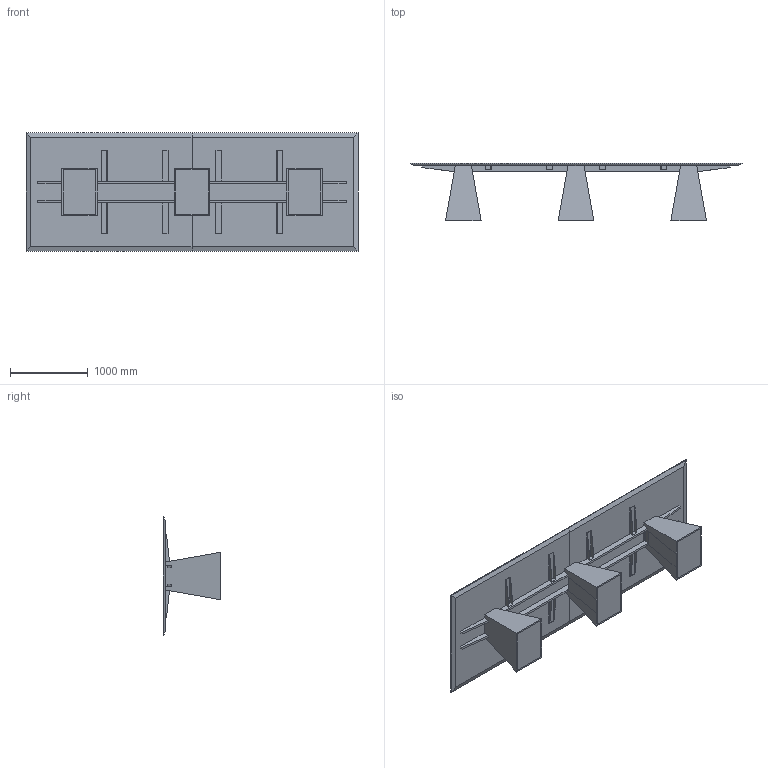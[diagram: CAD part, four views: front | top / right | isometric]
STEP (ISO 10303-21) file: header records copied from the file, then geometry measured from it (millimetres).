
FILE_DESCRIPTION(/* description */ ('','CAx-IF Rec.Pracs.---Representation and Presentation of Product Manufacturing Information (PMI)---4.0---2014-10-13'),/* implementation_level */ '2;1');
FILE_NAME(/* name */ 'TABLE_GRADIENT 7.stp',/* time_stamp */ '2024-12-07T16:26:54-05:00',/* author */ ('mbowman'),/* organization */ (''),/* preprocessor_version */ 'ST-DEVELOPER v19.2',/* originating_system */ 'Autodesk Inventor 2023',/* authorisation */ '');
FILE_SCHEMA (('AP242_MANAGED_MODEL_BASED_3D_ENGINEERING_MIM_LF { 1 0 10303 442 1 1 4 }'));
Length unit declared in the file: inch
Products named in the file (38): GRADIENT^TABLE 7_PYRAMID BASES-ASSEMBLY; GRADIENT^TABLE 7_PYRAMID BASES-CTR BASE BOTTOM; GRADIENT^TABLE 7_PYRAMID BASES-CTR BASE BACK; GRADIENT^TABLE 7_PYRAMID BASES-CTR BASE RIGHT SIDE; GRADIENT^TABLE 7_PYRAMID BASES-CTR BASE RIGHT WING; GRADIENT^TABLE 7_PYRAMID BASES-CTR BASE ACCESS; GRADIENT^TABLE 7_PYRAMID BASES-CTR BASE LEFT WING; GRADIENT^TABLE 7_PYRAMID BASES-CTR BASE LEFT SIDE; GRADIENT^TABLE 7_PYRAMID BASES-RIGHT TOP; GRADIENT^TABLE 7_PYRAMID BASES-LEFT TOP; GRADIENT^TABLE 7_PYRAMID BASES-KEEL; GRADIENT^TABLE 7_PYRAMID BASES-RIGHT KEEL; GRADIENT^TABLE 7_PYRAMID BASES-END BASE RIGHT WING; GRADIENT^TABLE 7_PYRAMID BASES-END BASE ACCESS; GRADIENT^TABLE 7_PYRAMID BASES-END BASE LEFT WING; GRADIENT^TABLE 7_PYRAMID BASES-END BASE BOTTOM; GRADIENT^TABLE 7_PYRAMID BASES-END BASE LEFT SIDE; GRADIENT^TABLE 7_PYRAMID BASES-END BASE RIGHT SIDE; GRADIENT^TABLE 7_PYRAMID BASES-END BASE BACK; ECA INTERACT+ UT; ECA INTERACT+ UT_1; 8965-6403_8965-6408 no wires; 025-0043_025-0043; GRADIENT^TABLE 7_PYRAMID BASES-POWER LID; _ASSEM_HINGE; _ASSEM_HINGE_1; _ASSEM_HINGE_2; _ASSEM_HINGE_3; _SUPPORT; _TIGE_3; _ARM; _TIGE_2; _TIGE_1; GRADIENT^TABLE 7_PYRAMID BASES-BASE TOP FRONT BLOCKING; GRADIENT^TABLE 7_PYRAMID BASES-BASE BTOP BACK BLOCKING; GRADIENT^TABLE 7_PYRAMID BASES-BASE TOP; GRADIENT^TABLE 7_PYRAMID BASES-BASE TOP SIDE BLOCKING; GRADIENT^TABLE 7_PYRAMID BASES-SUPPORT ANGLE
Assembly tree (109 placements, depth 4):
  GRADIENT^TABLE 7_PYRAMID BASES-ASSEMBLY
    GRADIENT^TABLE 7_PYRAMID BASES-CTR BASE BOTTOM
    GRADIENT^TABLE 7_PYRAMID BASES-CTR BASE BACK
    GRADIENT^TABLE 7_PYRAMID BASES-CTR BASE RIGHT SIDE
    GRADIENT^TABLE 7_PYRAMID BASES-CTR BASE RIGHT WING
    GRADIENT^TABLE 7_PYRAMID BASES-CTR BASE ACCESS
    GRADIENT^TABLE 7_PYRAMID BASES-CTR BASE LEFT WING
    GRADIENT^TABLE 7_PYRAMID BASES-CTR BASE LEFT SIDE
    GRADIENT^TABLE 7_PYRAMID BASES-END BASE RIGHT WING  x2
    GRADIENT^TABLE 7_PYRAMID BASES-END BASE ACCESS  x2
    GRADIENT^TABLE 7_PYRAMID BASES-END BASE LEFT WING  x2
    GRADIENT^TABLE 7_PYRAMID BASES-END BASE BOTTOM  x2
    GRADIENT^TABLE 7_PYRAMID BASES-END BASE LEFT SIDE  x2
    GRADIENT^TABLE 7_PYRAMID BASES-END BASE RIGHT SIDE  x2
    GRADIENT^TABLE 7_PYRAMID BASES-END BASE BACK  x2
    GRADIENT^TABLE 7_PYRAMID BASES-RIGHT TOP
    GRADIENT^TABLE 7_PYRAMID BASES-LEFT TOP
    GRADIENT^TABLE 7_PYRAMID BASES-KEEL  x2
    GRADIENT^TABLE 7_PYRAMID BASES-RIGHT KEEL  x2
    ECA INTERACT+ UT  x2
      ECA INTERACT+ UT_1
      8965-6403_8965-6408 no wires
        025-0043_025-0043
    GRADIENT^TABLE 7_PYRAMID BASES-POWER LID  x2
    _ASSEM_HINGE
      _SUPPORT  x2
      _TIGE_3  x2
      _ARM  x4
      _TIGE_1  x2
      _TIGE_2
    _ASSEM_HINGE_1
      _SUPPORT  x2
      _TIGE_3  x2
      _ARM  x4
      _TIGE_1  x2
      _TIGE_2
    _ASSEM_HINGE_2
      _SUPPORT  x2
      _TIGE_3  x2
      _ARM  x4
      _TIGE_1  x2
      _TIGE_2
    _ASSEM_HINGE_3
      _SUPPORT  x2
      _TIGE_3  x2
      _ARM  x4
      _TIGE_1  x2
      _TIGE_2
    GRADIENT^TABLE 7_PYRAMID BASES-BASE TOP FRONT BLOCKING  x3
    GRADIENT^TABLE 7_PYRAMID BASES-BASE BTOP BACK BLOCKING  x3
    GRADIENT^TABLE 7_PYRAMID BASES-BASE TOP SIDE BLOCKING  x6
    GRADIENT^TABLE 7_PYRAMID BASES-BASE TOP  x3
    GRADIENT^TABLE 7_PYRAMID BASES-SUPPORT ANGLE  x8
Bounding box: 4267.2 x 742.95 x 1524 mm (x, y, z)
Volume: 306523097.2 mm3; surface area: 26246799.2 mm2
Topology: 110 solids, 110 shells, 4967 faces, 13457 edges, 8702 vertices
Faces by surface type: plane 3001, cylinder 1692, torus 176, cone 66, sphere 32
Full cylindrical faces by diameter (mm): 1 x84, 1.1 x8, 8 x6, 8.007 x2, 9.525 x2
Entity records: 33522 total; most frequent: CARTESIAN_POINT 8416, DIRECTION 5031, ORIENTED_EDGE 4288, EDGE_CURVE 2144, AXIS2_PLACEMENT_3D 1690, LINE 1651, VECTOR 1651, VERTEX_POINT 1394
